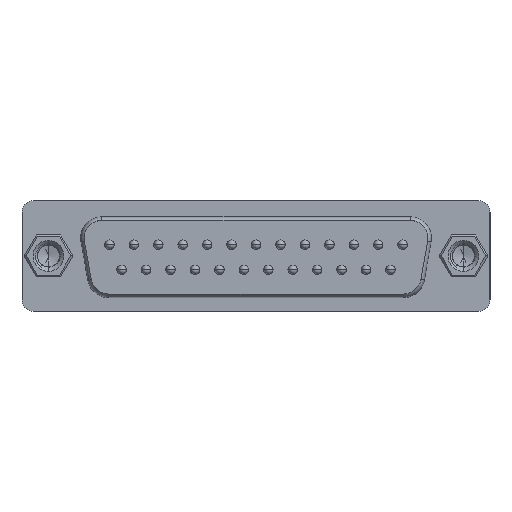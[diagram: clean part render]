
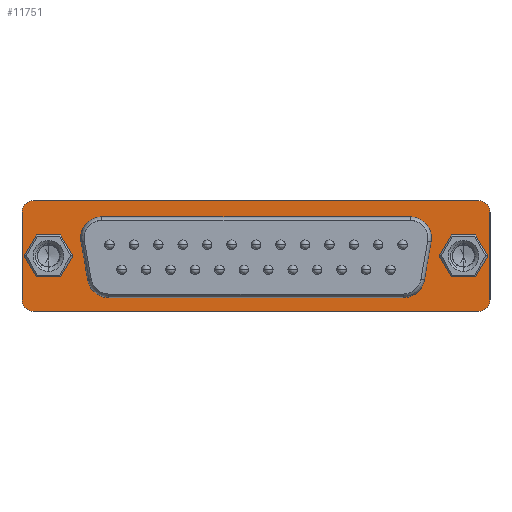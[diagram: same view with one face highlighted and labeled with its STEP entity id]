
A CAD part, top view. The second image highlights one B-rep face of the part: STEP entity #11751.
In plain terms, the highlighted planar face has unit normal (0, 0, 1).
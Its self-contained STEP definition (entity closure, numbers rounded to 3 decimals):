
#10338=CARTESIAN_POINT('',(23.51,0.145,0.4));
#10339=DIRECTION('',(0.,0.,-1.));
#10340=DIRECTION('',(1.,0.,0.));
#10341=AXIS2_PLACEMENT_3D('',#10338,#10339,#10340);
#10343=CARTESIAN_POINT('',(23.51,0.145,0.4));
#10344=DIRECTION('',(0.,0.,-1.));
#10345=DIRECTION('',(-1.,0.,0.));
#10346=AXIS2_PLACEMENT_3D('',#10343,#10344,#10345);
#10348=CARTESIAN_POINT('',(-23.53,0.145,0.4));
#10349=DIRECTION('',(0.,0.,-1.));
#10350=DIRECTION('',(1.,0.,0.));
#10351=AXIS2_PLACEMENT_3D('',#10348,#10349,#10350);
#10353=CARTESIAN_POINT('',(-23.53,0.145,0.4));
#10354=DIRECTION('',(0.,0.,-1.));
#10355=DIRECTION('',(-1.,0.,0.));
#10356=AXIS2_PLACEMENT_3D('',#10353,#10354,#10355);
#10358=CARTESIAN_POINT('',(-25.23,5.12,0.4));
#10359=DIRECTION('',(0.,0.,1.));
#10360=DIRECTION('',(0.,1.,0.));
#10361=AXIS2_PLACEMENT_3D('',#10358,#10359,#10360);
#10363=DIRECTION('',(-1.,0.,0.));
#10364=VECTOR('',#10363,50.44);
#10365=CARTESIAN_POINT('',(25.21,6.42,0.4));
#10366=LINE('',#10365,#10364);
#10367=CARTESIAN_POINT('',(25.21,5.12,0.4));
#10368=DIRECTION('',(0.,0.,1.));
#10369=DIRECTION('',(1.,0.,0.));
#10370=AXIS2_PLACEMENT_3D('',#10367,#10368,#10369);
#10372=DIRECTION('',(0.,1.,0.));
#10373=VECTOR('',#10372,9.95);
#10374=CARTESIAN_POINT('',(26.51,-4.83,0.4));
#10375=LINE('',#10374,#10373);
#10376=CARTESIAN_POINT('',(25.21,-4.83,0.4));
#10377=DIRECTION('',(0.,0.,1.));
#10378=DIRECTION('',(0.,-1.,0.));
#10379=AXIS2_PLACEMENT_3D('',#10376,#10377,#10378);
#10381=DIRECTION('',(1.,0.,0.));
#10382=VECTOR('',#10381,50.44);
#10383=CARTESIAN_POINT('',(-25.23,-6.13,0.4));
#10384=LINE('',#10383,#10382);
#10385=CARTESIAN_POINT('',(-25.23,-4.83,0.4));
#10386=DIRECTION('',(0.,0.,1.));
#10387=DIRECTION('',(-1.,0.,0.));
#10388=AXIS2_PLACEMENT_3D('',#10385,#10386,#10387);
#10390=DIRECTION('',(0.,-1.,0.));
#10391=VECTOR('',#10390,9.95);
#10392=CARTESIAN_POINT('',(-26.53,5.12,0.4));
#10393=LINE('',#10392,#10391);
#10394=DIRECTION('',(-1.,0.,0.));
#10395=VECTOR('',#10394,34.96);
#10396=CARTESIAN_POINT('',(17.48,4.58,0.4));
#10397=LINE('',#10396,#10395);
#10398=CARTESIAN_POINT('',(-17.48,2.18,0.4));
#10399=DIRECTION('',(0.,0.,1.));
#10400=DIRECTION('',(0.,1.,0.));
#10401=AXIS2_PLACEMENT_3D('',#10398,#10399,#10400);
#10403=DIRECTION('',(0.174,-0.985,0.));
#10404=VECTOR('',#10403,4.427);
#10405=CARTESIAN_POINT('',(-19.844,1.763,0.4));
#10406=LINE('',#10405,#10404);
#10407=CARTESIAN_POINT('',(-16.711,-2.18,0.4));
#10408=DIRECTION('',(0.,0.,1.));
#10409=DIRECTION('',(-0.985,-0.174,0.));
#10410=AXIS2_PLACEMENT_3D('',#10407,#10408,#10409);
#10412=DIRECTION('',(1.,0.,0.));
#10413=VECTOR('',#10412,33.422);
#10414=CARTESIAN_POINT('',(-16.711,-4.58,0.4));
#10415=LINE('',#10414,#10413);
#10416=CARTESIAN_POINT('',(16.711,-2.18,0.4));
#10417=DIRECTION('',(0.,0.,1.));
#10418=DIRECTION('',(0.,-1.,0.));
#10419=AXIS2_PLACEMENT_3D('',#10416,#10417,#10418);
#10421=DIRECTION('',(0.174,0.985,0.));
#10422=VECTOR('',#10421,4.427);
#10423=CARTESIAN_POINT('',(19.075,-2.597,0.4));
#10424=LINE('',#10423,#10422);
#10425=CARTESIAN_POINT('',(17.48,2.18,0.4));
#10426=DIRECTION('',(0.,0.,1.));
#10427=DIRECTION('',(0.985,-0.174,0.));
#10428=AXIS2_PLACEMENT_3D('',#10425,#10426,#10427);
#11314=CARTESIAN_POINT('',(-26.53,5.12,0.4));
#11315=CARTESIAN_POINT('',(-26.53,-4.83,0.4));
#11316=VERTEX_POINT('',#11314);
#11317=VERTEX_POINT('',#11315);
#11318=CARTESIAN_POINT('',(-25.23,-6.13,0.4));
#11319=CARTESIAN_POINT('',(25.21,-6.13,0.4));
#11320=VERTEX_POINT('',#11318);
#11321=VERTEX_POINT('',#11319);
#11322=CARTESIAN_POINT('',(26.51,-4.83,0.4));
#11323=CARTESIAN_POINT('',(26.51,5.12,0.4));
#11324=VERTEX_POINT('',#11322);
#11325=VERTEX_POINT('',#11323);
#11326=CARTESIAN_POINT('',(25.21,6.42,0.4));
#11327=CARTESIAN_POINT('',(-25.23,6.42,0.4));
#11328=VERTEX_POINT('',#11326);
#11329=VERTEX_POINT('',#11327);
#11330=CARTESIAN_POINT('',(17.48,4.58,0.4));
#11331=CARTESIAN_POINT('',(-17.48,4.58,0.4));
#11332=VERTEX_POINT('',#11330);
#11333=VERTEX_POINT('',#11331);
#11334=CARTESIAN_POINT('',(-19.844,1.763,0.4));
#11335=VERTEX_POINT('',#11334);
#11336=CARTESIAN_POINT('',(-19.075,-2.597,0.4));
#11337=VERTEX_POINT('',#11336);
#11338=CARTESIAN_POINT('',(-16.711,-4.58,0.4));
#11339=VERTEX_POINT('',#11338);
#11340=CARTESIAN_POINT('',(16.711,-4.58,0.4));
#11341=VERTEX_POINT('',#11340);
#11342=CARTESIAN_POINT('',(19.075,-2.597,0.4));
#11343=VERTEX_POINT('',#11342);
#11344=CARTESIAN_POINT('',(19.844,1.763,0.4));
#11345=VERTEX_POINT('',#11344);
#11610=CARTESIAN_POINT('',(25.535,0.145,0.4));
#11611=CARTESIAN_POINT('',(21.485,0.145,0.4));
#11612=VERTEX_POINT('',#11610);
#11613=VERTEX_POINT('',#11611);
#11614=CARTESIAN_POINT('',(-21.505,0.145,0.4));
#11615=CARTESIAN_POINT('',(-25.555,0.145,0.4));
#11616=VERTEX_POINT('',#11614);
#11617=VERTEX_POINT('',#11615);
#11700=CARTESIAN_POINT('',(0.,0.,0.4));
#11701=DIRECTION('',(0.,0.,1.));
#11702=DIRECTION('',(1.,0.,0.));
#11703=AXIS2_PLACEMENT_3D('',#11700,#11701,#11702);
#11704=PLANE('',#11703);
#11706=ORIENTED_EDGE('',*,*,#11705,.F.);
#11708=ORIENTED_EDGE('',*,*,#11707,.F.);
#11710=ORIENTED_EDGE('',*,*,#11709,.F.);
#11712=ORIENTED_EDGE('',*,*,#11711,.F.);
#11714=ORIENTED_EDGE('',*,*,#11713,.F.);
#11716=ORIENTED_EDGE('',*,*,#11715,.F.);
#11718=ORIENTED_EDGE('',*,*,#11717,.F.);
#11720=ORIENTED_EDGE('',*,*,#11719,.F.);
#11721=EDGE_LOOP('',(#11706,#11708,#11710,#11712,#11714,#11716,#11718,#11720));
#11722=FACE_OUTER_BOUND('',#11721,.F.);
#11724=ORIENTED_EDGE('',*,*,#11723,.F.);
#11726=ORIENTED_EDGE('',*,*,#11725,.F.);
#11727=EDGE_LOOP('',(#11724,#11726));
#11728=FACE_BOUND('',#11727,.F.);
#11729=ORIENTED_EDGE('',*,*,#11680,.F.);
#11730=ORIENTED_EDGE('',*,*,#11694,.F.);
#11731=EDGE_LOOP('',(#11729,#11730));
#11732=FACE_BOUND('',#11731,.F.);
#11734=ORIENTED_EDGE('',*,*,#11733,.T.);
#11736=ORIENTED_EDGE('',*,*,#11735,.T.);
#11738=ORIENTED_EDGE('',*,*,#11737,.T.);
#11740=ORIENTED_EDGE('',*,*,#11739,.T.);
#11742=ORIENTED_EDGE('',*,*,#11741,.T.);
#11744=ORIENTED_EDGE('',*,*,#11743,.T.);
#11746=ORIENTED_EDGE('',*,*,#11745,.T.);
#11748=ORIENTED_EDGE('',*,*,#11747,.T.);
#11749=EDGE_LOOP('',(#11734,#11736,#11738,#11740,#11742,#11744,#11746,#11748));
#11750=FACE_BOUND('',#11749,.F.);
#10342=CIRCLE('',#10341,2.025);
#10347=CIRCLE('',#10346,2.025);
#10352=CIRCLE('',#10351,2.025);
#10357=CIRCLE('',#10356,2.025);
#10362=CIRCLE('',#10361,1.3);
#10371=CIRCLE('',#10370,1.3);
#10380=CIRCLE('',#10379,1.3);
#10389=CIRCLE('',#10388,1.3);
#10402=CIRCLE('',#10401,2.4);
#10411=CIRCLE('',#10410,2.4);
#10420=CIRCLE('',#10419,2.4);
#10429=CIRCLE('',#10428,2.4);
#11680=EDGE_CURVE('',#11612,#11613,#10342,.T.);
#11694=EDGE_CURVE('',#11613,#11612,#10347,.T.);
#11705=EDGE_CURVE('',#11329,#11316,#10362,.T.);
#11707=EDGE_CURVE('',#11328,#11329,#10366,.T.);
#11709=EDGE_CURVE('',#11325,#11328,#10371,.T.);
#11711=EDGE_CURVE('',#11324,#11325,#10375,.T.);
#11713=EDGE_CURVE('',#11321,#11324,#10380,.T.);
#11715=EDGE_CURVE('',#11320,#11321,#10384,.T.);
#11717=EDGE_CURVE('',#11317,#11320,#10389,.T.);
#11719=EDGE_CURVE('',#11316,#11317,#10393,.T.);
#11723=EDGE_CURVE('',#11616,#11617,#10352,.T.);
#11725=EDGE_CURVE('',#11617,#11616,#10357,.T.);
#11733=EDGE_CURVE('',#11332,#11333,#10397,.T.);
#11735=EDGE_CURVE('',#11333,#11335,#10402,.T.);
#11737=EDGE_CURVE('',#11335,#11337,#10406,.T.);
#11739=EDGE_CURVE('',#11337,#11339,#10411,.T.);
#11741=EDGE_CURVE('',#11339,#11341,#10415,.T.);
#11743=EDGE_CURVE('',#11341,#11343,#10420,.T.);
#11745=EDGE_CURVE('',#11343,#11345,#10424,.T.);
#11747=EDGE_CURVE('',#11345,#11332,#10429,.T.);
#11751=ADVANCED_FACE('',(#11722,#11728,#11732,#11750),#11704,.T.);
